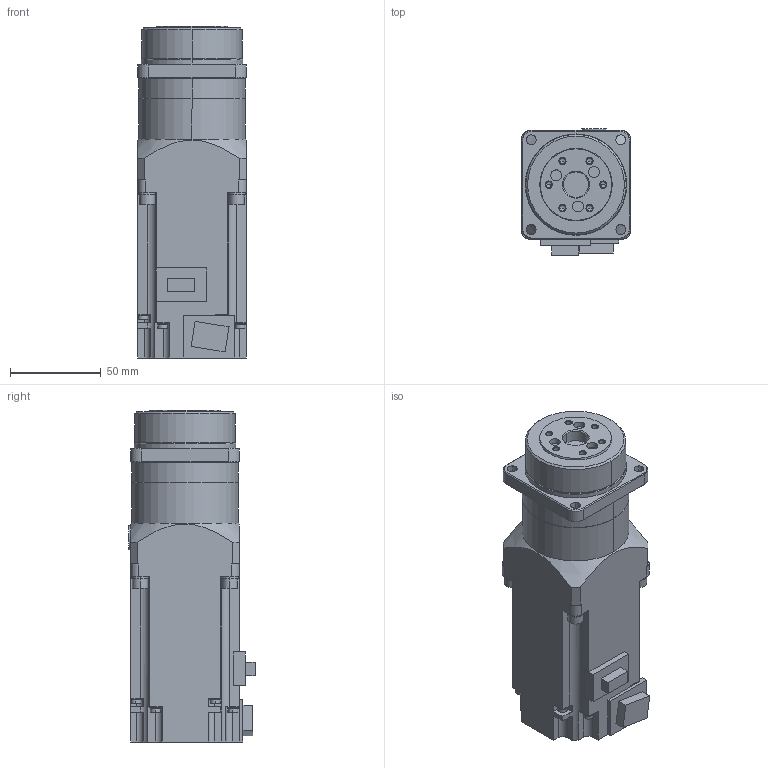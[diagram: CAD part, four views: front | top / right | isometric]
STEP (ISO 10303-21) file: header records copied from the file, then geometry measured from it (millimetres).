
FILE_DESCRIPTION((''),'2;1');
FILE_NAME('HG-KR43G5_05','2018-02-06T',('MW68716'),(''),'CREO PARAMETRIC BY PTC INC, 2016380','CREO PARAMETRIC BY PTC INC, 2016380','');
FILE_SCHEMA(('CONFIG_CONTROL_DESIGN'));
Length unit declared in the file: millimetre
Products named in the file (1): HG-KR43G5_05
Bounding box: 60.07 x 69.8 x 183.3 mm (x, y, z)
Volume: 562832.3 mm3; surface area: 51377.2 mm2
Topology: 1 solids, 1 shells, 315 faces, 770 edges, 483 vertices
Faces by surface type: plane 141, cylinder 130, cone 44
Entity records: 9568 total; most frequent: CARTESIAN_POINT 1884, DIRECTION 1706, ORIENTED_EDGE 1516, EDGE_CURVE 758, AXIS2_PLACEMENT_3D 645, VERTEX_POINT 483, VECTOR 416, LINE 416
